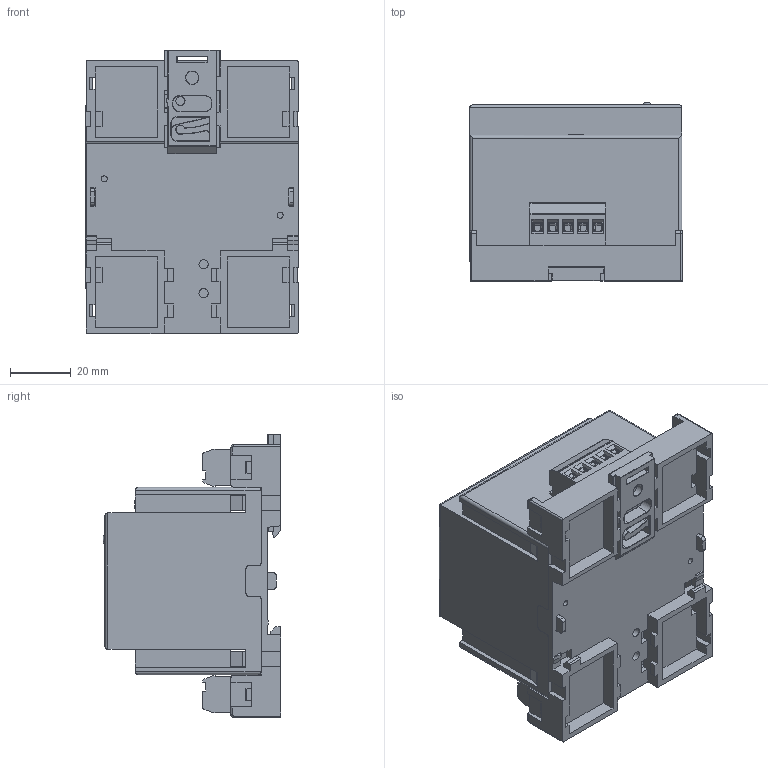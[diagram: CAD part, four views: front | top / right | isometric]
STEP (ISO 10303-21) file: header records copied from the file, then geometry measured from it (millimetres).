
FILE_DESCRIPTION (( 'STEP AP214' ), '1' );
FILE_NAME ('1172 1900_3D.STEP', '2013-11-22T13:12:36', ( '' ), ( '' ), 'SwSTEP 2.0', 'SolidWorks 2013', '' );
FILE_SCHEMA (( 'AUTOMOTIVE_DESIGN' ));
Length unit declared in the file: millimetre
Products named in the file (11): V4_Frontplatte; V4_Oberteil; V4_Leiterplatte; V4_Unterteil; 1172 1900_3D; V-Riegel_3D; 31137108; 31137105; 31137102; T221737_Typenschild; V4_komplett
Assembly tree (10 placements, depth 3):
  1172 1900_3D
    V4_komplett
      V4_Unterteil
      V4_Leiterplatte
      V4_Oberteil
      V4_Frontplatte
    T221737_Typenschild
    31137102
    31137105
    31137108
    V-Riegel_3D
Bounding box: 70.1 x 58.68 x 93.35 mm (x, y, z)
Volume: 66818 mm3; surface area: 83507.3 mm2
Topology: 281 solids, 281 shells, 5349 faces, 14202 edges, 9375 vertices
Faces by surface type: plane 4183, bspline 509, cylinder 490, cone 120, torus 33, sphere 14
Full cylindrical faces by diameter (mm): 1.5 x19, 1.8 x4, 2 x17, 2.25 x15, 2.4 x15, 2.7 x15, 2.8 x1, 3 x34, 3.5 x4, 3.9 x15, 4.2 x1, 4.5 x2
Entity records: 181590 total; most frequent: CARTESIAN_POINT 46935, ORIENTED_EDGE 27450, DIRECTION 23506, EDGE_CURVE 13725, LINE 10992, VECTOR 10992, VERTEX_POINT 9187, AXIS2_PLACEMENT_3D 6257
